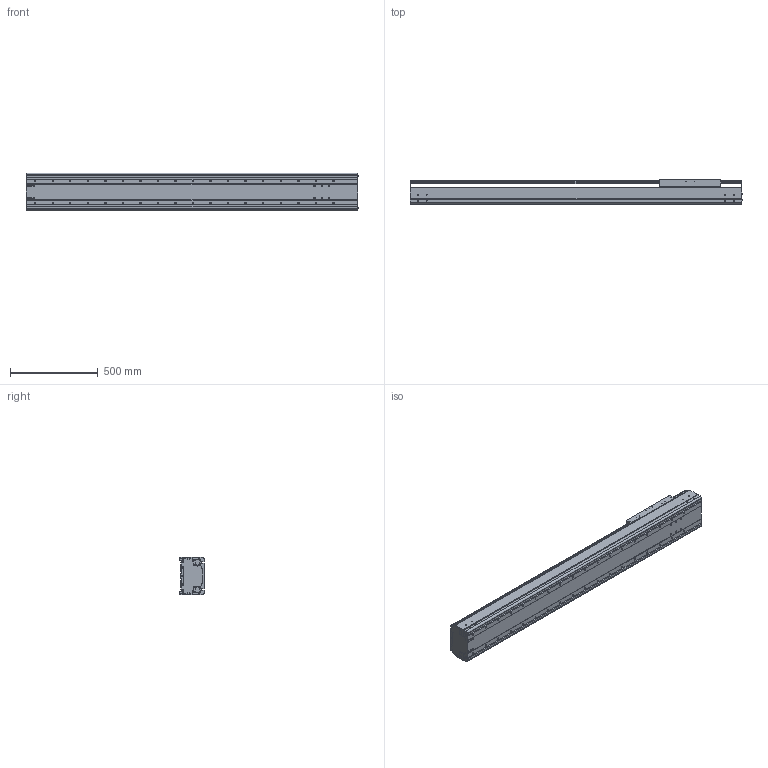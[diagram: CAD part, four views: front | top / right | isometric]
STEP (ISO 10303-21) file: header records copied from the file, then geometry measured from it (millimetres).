
FILE_DESCRIPTION((''),'2;1');
FILE_NAME('BE60J-ST-L_N-D5_IGS_PRT','2017-06-18T',(' '),(''),'PRO/ENGINEER BY PARAMETRIC TECHNOLOGY CORPORATION, 2015030','PRO/ENGINEER BY PARAMETRIC TECHNOLOGY CORPORATION, 2015030','');
FILE_SCHEMA(('CONFIG_CONTROL_DESIGN'));
Length unit declared in the file: millimetre
Products named in the file (1): BE60J-ST-L_N-D5_IGS_PRT
Bounding box: 1892.4 x 140 x 214 mm (x, y, z)
Volume: 14724369.8 mm3; surface area: 3997256.6 mm2
Topology: 2 solids, 132 shells, 1565 faces, 4422 edges, 2957 vertices
Faces by surface type: cylinder 832, plane 625, cone 60, sphere 24, torus 24
Entity records: 53026 total; most frequent: CARTESIAN_POINT 12005, DIRECTION 8538, ORIENTED_EDGE 8216, EDGE_CURVE 4364, AXIS2_PLACEMENT_3D 3202, VERTEX_POINT 2956, VECTOR 2134, LINE 2134
